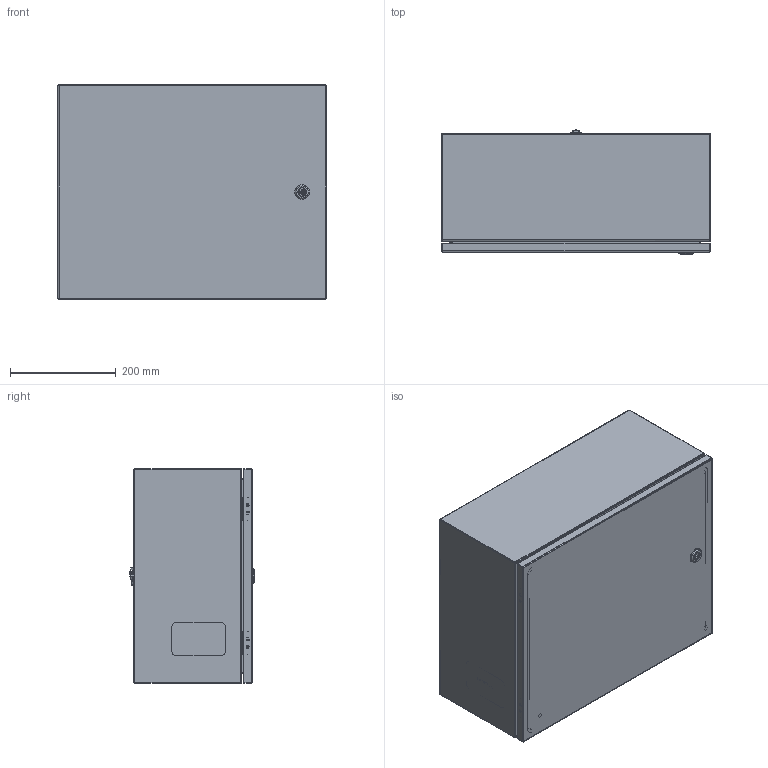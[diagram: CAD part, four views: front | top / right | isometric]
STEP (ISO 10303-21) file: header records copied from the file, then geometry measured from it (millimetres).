
FILE_DESCRIPTION(/* description */ ('Unknown'),/* implementation_level */ '2;1');
FILE_NAME(/* name */ 'EN4SD16208GY',/* time_stamp */ '2023-02-27T11:55:38-05:00',/* author */ ('Unknown'),/* organization */ ('Unknown'),/* preprocessor_version */ 'ST-DEVELOPER v18.102',/* originating_system */ 'Solid Edge',/* authorisation */ 'Unknown');
FILE_SCHEMA (('AUTOMOTIVE_DESIGN {1 0 10303 214 3 1 1}'));
Length unit declared in the file: millimetre
Products named in the file (27): EN4SD16208GY; std26098; HNG14573-1; COM52749; STD21878; COM52799; COM70219_oa_0; PNT11078; HNG14573-2; PIN17645; LOK10000; LOK10000_CAM; LOK10000_SCREW; LOK10000_NUT; KIT90669; NTS18006; BUL10136; WAM30022; SCC181205; NTS166105; NTS165305; NTS16535; BUL10020; CAP02342; QLB20183
Assembly tree (35 placements, depth 3):
  EN4SD16208GY
    std26098  x4
    HNG14573-1  x2
    COM52749
    STD21878
    COM52799
      COM70219_oa_0
      PNT11078
      HNG14573-2  x2
      STD21878
      COM52799
    PIN17645  x2
    LOK10000
      LOK10000
      LOK10000_CAM
      LOK10000_SCREW
      LOK10000_NUT
    KIT90669
      NTS18006
      BUL10136
      WAM30022
      SCC181205
      NTS166105
      NTS165305
      NTS16535
      BUL10020
    PNT11078
    CAP02342  x2
    QLB20183
Bounding box: 508 x 236.21 x 406.4 mm (x, y, z)
Volume: 1393922.6 mm3; surface area: 1870529.6 mm2
Topology: 28 solids, 29 shells, 817 faces, 1941 edges, 1221 vertices
Faces by surface type: plane 405, cylinder 174, bspline 165, torus 42, cone 31
Full cylindrical faces by diameter (mm): 4.369 x2, 4.976 x1, 5.74 x2, 5.893 x2, 6.096 x2, 6.35 x3, 6.411 x1, 6.858 x4, 7.137 x2, 7.417 x2, 7.805 x1, 7.938 x4, 9.144 x2, 10.109 x6, 11.557 x4, 12.7 x4, 13.335 x1, 14.732 x1, 15.875 x5, 19.939 x2, 22.225 x1, 27.94 x1
Entity records: 22570 total; most frequent: CARTESIAN_POINT 6716, ORIENTED_EDGE 3282, DIRECTION 2715, EDGE_CURVE 1641, VERTEX_POINT 1064, LINE 973, VECTOR 973, AXIS2_PLACEMENT_3D 871
